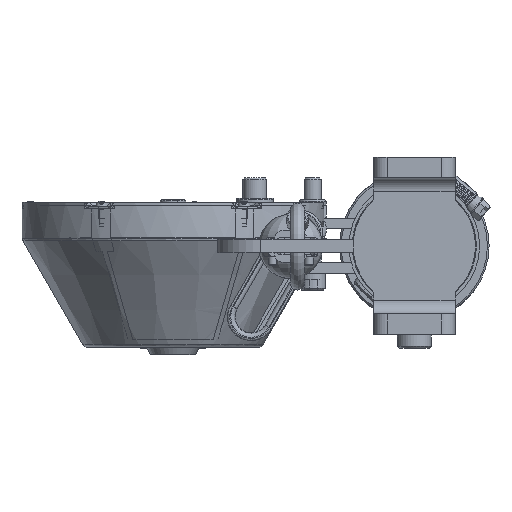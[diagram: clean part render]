
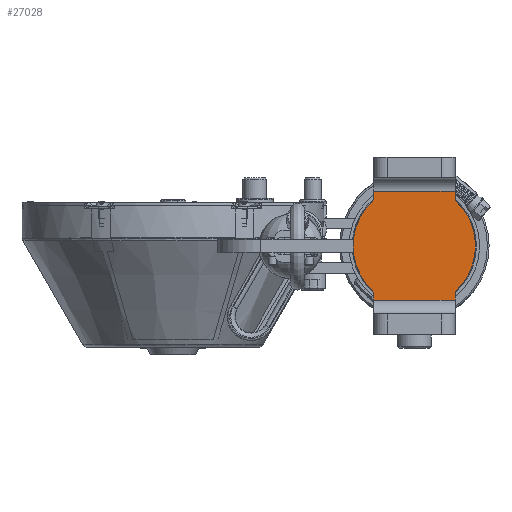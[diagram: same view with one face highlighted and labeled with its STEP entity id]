
A CAD part, front view. The second image highlights one B-rep face of the part: STEP entity #27028.
In plain terms, the highlighted planar face has unit normal (0, -1, 0).
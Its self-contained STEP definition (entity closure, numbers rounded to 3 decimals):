
#24412=CIRCLE('',#66222,3.175);
#24413=CIRCLE('',#66223,28.575);
#24414=CIRCLE('',#66224,3.175);
#24415=CIRCLE('',#66225,3.175);
#24416=CIRCLE('',#66226,28.575);
#24417=CIRCLE('',#66227,3.175);
#27028=ADVANCED_FACE('',(#30218),#28425,.T.);
#28425=PLANE('',#66228);
#30218=FACE_OUTER_BOUND('',#33216,.T.);
#33216=EDGE_LOOP('',(#45107,#45108,#45109,#45110,#45111,#45112,#45113,#45114,
#45115,#45116,#45117,#45118));
#45107=ORIENTED_EDGE('',*,*,#56461,.F.);
#45108=ORIENTED_EDGE('',*,*,#56467,.T.);
#45109=ORIENTED_EDGE('',*,*,#56468,.F.);
#45110=ORIENTED_EDGE('',*,*,#56469,.T.);
#45111=ORIENTED_EDGE('',*,*,#56470,.F.);
#45112=ORIENTED_EDGE('',*,*,#56471,.F.);
#45113=ORIENTED_EDGE('',*,*,#56465,.F.);
#45114=ORIENTED_EDGE('',*,*,#56472,.T.);
#45115=ORIENTED_EDGE('',*,*,#56473,.F.);
#45116=ORIENTED_EDGE('',*,*,#56474,.T.);
#45117=ORIENTED_EDGE('',*,*,#56475,.F.);
#45118=ORIENTED_EDGE('',*,*,#56476,.F.);
#50881=VERTEX_POINT('',#113477);
#50882=VERTEX_POINT('',#113479);
#50885=VERTEX_POINT('',#113486);
#50886=VERTEX_POINT('',#113488);
#50887=VERTEX_POINT('',#113492);
#50888=VERTEX_POINT('',#113494);
#50889=VERTEX_POINT('',#113496);
#50890=VERTEX_POINT('',#113498);
#50891=VERTEX_POINT('',#113501);
#50892=VERTEX_POINT('',#113503);
#50893=VERTEX_POINT('',#113505);
#50894=VERTEX_POINT('',#113507);
#56461=EDGE_CURVE('',#50881,#50882,#59411,.T.);
#56465=EDGE_CURVE('',#50885,#50886,#59415,.T.);
#56467=EDGE_CURVE('',#50881,#50887,#24412,.T.);
#56468=EDGE_CURVE('',#50888,#50887,#24413,.T.);
#56469=EDGE_CURVE('',#50888,#50889,#24414,.T.);
#56470=EDGE_CURVE('',#50890,#50889,#59417,.T.);
#56471=EDGE_CURVE('',#50886,#50890,#59418,.T.);
#56472=EDGE_CURVE('',#50885,#50891,#24415,.T.);
#56473=EDGE_CURVE('',#50892,#50891,#24416,.T.);
#56474=EDGE_CURVE('',#50892,#50893,#24417,.T.);
#56475=EDGE_CURVE('',#50894,#50893,#59419,.T.);
#56476=EDGE_CURVE('',#50882,#50894,#59420,.T.);
#59411=LINE('',#113478,#61858);
#59415=LINE('',#113487,#61862);
#59417=LINE('',#113497,#61864);
#59418=LINE('',#113499,#61865);
#59419=LINE('',#113506,#61866);
#59420=LINE('',#113508,#61867);
#61858=VECTOR('',#76488,1.);
#61862=VECTOR('',#76494,1.);
#61864=VECTOR('',#76504,1.);
#61865=VECTOR('',#76505,1.);
#61866=VECTOR('',#76512,1.);
#61867=VECTOR('',#76513,1.);
#66222=AXIS2_PLACEMENT_3D('',#113491,#76498,#76499);
#66223=AXIS2_PLACEMENT_3D('',#113493,#76500,#76501);
#66224=AXIS2_PLACEMENT_3D('',#113495,#76502,#76503);
#66225=AXIS2_PLACEMENT_3D('',#113500,#76506,#76507);
#66226=AXIS2_PLACEMENT_3D('',#113502,#76508,#76509);
#66227=AXIS2_PLACEMENT_3D('',#113504,#76510,#76511);
#66228=AXIS2_PLACEMENT_3D('',#113509,#76514,#76515);
#76488=DIRECTION('',(0.,0.,-1.));
#76494=DIRECTION('',(0.,0.,1.));
#76498=DIRECTION('',(0.,1.,0.));
#76499=DIRECTION('',(1.,0.,0.));
#76500=DIRECTION('',(0.,1.,0.));
#76501=DIRECTION('',(1.,0.,0.));
#76502=DIRECTION('',(0.,1.,0.));
#76503=DIRECTION('',(1.,0.,0.));
#76504=DIRECTION('',(0.,0.,-1.));
#76505=DIRECTION('',(1.,0.,0.));
#76506=DIRECTION('',(0.,1.,0.));
#76507=DIRECTION('',(1.,0.,0.));
#76508=DIRECTION('',(0.,1.,0.));
#76509=DIRECTION('',(1.,0.,0.));
#76510=DIRECTION('',(0.,1.,0.));
#76511=DIRECTION('',(1.,0.,0.));
#76512=DIRECTION('',(0.,0.,1.));
#76513=DIRECTION('',(-1.,0.,0.));
#76514=DIRECTION('',(0.,-1.,0.));
#76515=DIRECTION('',(1.,0.,0.));
#113477=CARTESIAN_POINT('',(19.05,-179.362,-22.674));
#113478=CARTESIAN_POINT('',(19.05,-179.362,-31.75));
#113479=CARTESIAN_POINT('',(19.05,-179.362,-25.4));
#113486=CARTESIAN_POINT('',(-19.05,-179.362,22.674));
#113487=CARTESIAN_POINT('',(-19.05,-179.362,-31.75));
#113488=CARTESIAN_POINT('',(-19.05,-179.362,25.4));
#113491=CARTESIAN_POINT('',(22.225,-179.362,-22.674));
#113492=CARTESIAN_POINT('',(20.003,-179.362,-20.407));
#113493=CARTESIAN_POINT('',(0.,-179.362,0.));
#113494=CARTESIAN_POINT('',(20.003,-179.362,20.407));
#113495=CARTESIAN_POINT('',(22.225,-179.362,22.674));
#113496=CARTESIAN_POINT('',(19.05,-179.362,22.674));
#113497=CARTESIAN_POINT('',(19.05,-179.362,-31.75));
#113498=CARTESIAN_POINT('',(19.05,-179.362,25.4));
#113499=CARTESIAN_POINT('',(-19.05,-179.362,25.4));
#113500=CARTESIAN_POINT('',(-22.225,-179.362,22.674));
#113501=CARTESIAN_POINT('',(-20.003,-179.362,20.407));
#113502=CARTESIAN_POINT('',(0.,-179.362,0.));
#113503=CARTESIAN_POINT('',(-20.003,-179.362,-20.407));
#113504=CARTESIAN_POINT('',(-22.225,-179.362,-22.674));
#113505=CARTESIAN_POINT('',(-19.05,-179.362,-22.674));
#113506=CARTESIAN_POINT('',(-19.05,-179.362,-31.75));
#113507=CARTESIAN_POINT('',(-19.05,-179.362,-25.4));
#113508=CARTESIAN_POINT('',(19.05,-179.362,-25.4));
#113509=CARTESIAN_POINT('',(0.,-179.362,0.));
